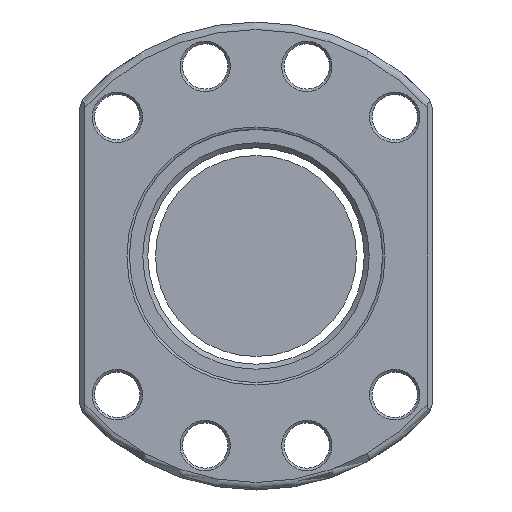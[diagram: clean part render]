
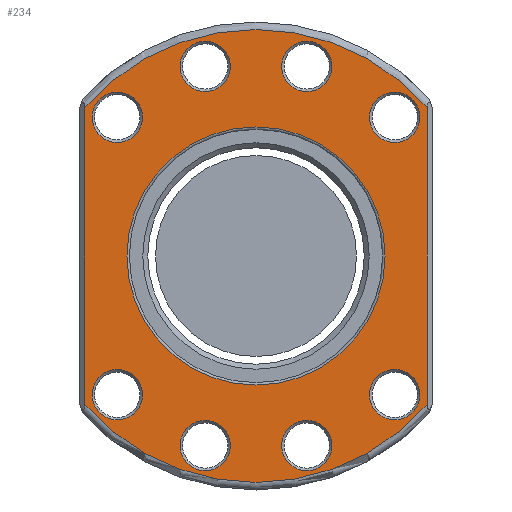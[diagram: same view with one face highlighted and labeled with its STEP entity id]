
A CAD part, front view. The second image highlights one B-rep face of the part: STEP entity #234.
In plain terms, the highlighted planar face has unit normal (0, -1, 0).
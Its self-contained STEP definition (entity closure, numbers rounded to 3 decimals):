
#53=LINE('',#1744,#77);
#54=LINE('',#1748,#78);
#77=VECTOR('',#1443,1.);
#78=VECTOR('',#1446,1.);
#169=PLANE('',#1182);
#234=ADVANCED_FACE('',(#361,#362,#363,#364,#365,#366,#367,#368,#369,#370),
#169,.F.);
#361=FACE_BOUND('',#497,.T.);
#362=FACE_BOUND('',#498,.T.);
#363=FACE_BOUND('',#499,.T.);
#364=FACE_BOUND('',#500,.T.);
#365=FACE_BOUND('',#501,.T.);
#366=FACE_BOUND('',#502,.T.);
#367=FACE_BOUND('',#503,.T.);
#368=FACE_BOUND('',#504,.T.);
#369=FACE_BOUND('',#505,.T.);
#370=FACE_BOUND('',#506,.T.);
#497=EDGE_LOOP('',(#660));
#498=EDGE_LOOP('',(#661));
#499=EDGE_LOOP('',(#662));
#500=EDGE_LOOP('',(#663));
#501=EDGE_LOOP('',(#664));
#502=EDGE_LOOP('',(#665));
#503=EDGE_LOOP('',(#666));
#504=EDGE_LOOP('',(#667));
#505=EDGE_LOOP('',(#668));
#506=EDGE_LOOP('',(#669,#670,#671,#672));
#660=ORIENTED_EDGE('',*,*,#963,.T.);
#661=ORIENTED_EDGE('',*,*,#964,.T.);
#662=ORIENTED_EDGE('',*,*,#965,.T.);
#663=ORIENTED_EDGE('',*,*,#966,.T.);
#664=ORIENTED_EDGE('',*,*,#967,.T.);
#665=ORIENTED_EDGE('',*,*,#968,.T.);
#666=ORIENTED_EDGE('',*,*,#969,.T.);
#667=ORIENTED_EDGE('',*,*,#970,.T.);
#668=ORIENTED_EDGE('',*,*,#971,.T.);
#669=ORIENTED_EDGE('',*,*,#972,.T.);
#670=ORIENTED_EDGE('',*,*,#973,.T.);
#671=ORIENTED_EDGE('',*,*,#974,.T.);
#672=ORIENTED_EDGE('',*,*,#975,.T.);
#866=VERTEX_POINT('',#1724);
#867=VERTEX_POINT('',#1726);
#868=VERTEX_POINT('',#1728);
#869=VERTEX_POINT('',#1730);
#870=VERTEX_POINT('',#1732);
#871=VERTEX_POINT('',#1734);
#872=VERTEX_POINT('',#1736);
#873=VERTEX_POINT('',#1738);
#874=VERTEX_POINT('',#1740);
#875=VERTEX_POINT('',#1742);
#876=VERTEX_POINT('',#1743);
#877=VERTEX_POINT('',#1745);
#878=VERTEX_POINT('',#1747);
#963=EDGE_CURVE('',#866,#866,#1062,.T.);
#964=EDGE_CURVE('',#867,#867,#1063,.T.);
#965=EDGE_CURVE('',#868,#868,#1064,.T.);
#966=EDGE_CURVE('',#869,#869,#1065,.T.);
#967=EDGE_CURVE('',#870,#870,#1066,.T.);
#968=EDGE_CURVE('',#871,#871,#1067,.T.);
#969=EDGE_CURVE('',#872,#872,#1068,.T.);
#970=EDGE_CURVE('',#873,#873,#1069,.T.);
#971=EDGE_CURVE('',#874,#874,#1070,.T.);
#972=EDGE_CURVE('',#875,#876,#1071,.T.);
#973=EDGE_CURVE('',#876,#877,#53,.T.);
#974=EDGE_CURVE('',#877,#878,#1072,.T.);
#975=EDGE_CURVE('',#878,#875,#54,.T.);
#1062=CIRCLE('',#1171,25.65);
#1063=CIRCLE('',#1172,5.);
#1064=CIRCLE('',#1173,5.);
#1065=CIRCLE('',#1174,5.);
#1066=CIRCLE('',#1175,5.);
#1067=CIRCLE('',#1176,5.);
#1068=CIRCLE('',#1177,5.);
#1069=CIRCLE('',#1178,5.);
#1070=CIRCLE('',#1179,5.);
#1071=CIRCLE('',#1180,45.);
#1072=CIRCLE('',#1181,45.);
#1171=AXIS2_PLACEMENT_3D('',#1723,#1423,#1424);
#1172=AXIS2_PLACEMENT_3D('',#1725,#1425,#1426);
#1173=AXIS2_PLACEMENT_3D('',#1727,#1427,#1428);
#1174=AXIS2_PLACEMENT_3D('',#1729,#1429,#1430);
#1175=AXIS2_PLACEMENT_3D('',#1731,#1431,#1432);
#1176=AXIS2_PLACEMENT_3D('',#1733,#1433,#1434);
#1177=AXIS2_PLACEMENT_3D('',#1735,#1435,#1436);
#1178=AXIS2_PLACEMENT_3D('',#1737,#1437,#1438);
#1179=AXIS2_PLACEMENT_3D('',#1739,#1439,#1440);
#1180=AXIS2_PLACEMENT_3D('',#1741,#1441,#1442);
#1181=AXIS2_PLACEMENT_3D('',#1746,#1444,#1445);
#1182=AXIS2_PLACEMENT_3D('',#1749,#1447,#1448);
#1423=DIRECTION('',(0.,1.,0.));
#1424=DIRECTION('',(0.,0.,1.));
#1425=DIRECTION('',(0.,1.,0.));
#1426=DIRECTION('',(0.,0.,1.));
#1427=DIRECTION('',(0.,1.,0.));
#1428=DIRECTION('',(0.,0.,1.));
#1429=DIRECTION('',(0.,1.,0.));
#1430=DIRECTION('',(0.,0.,1.));
#1431=DIRECTION('',(0.,1.,0.));
#1432=DIRECTION('',(0.,0.,1.));
#1433=DIRECTION('',(0.,1.,0.));
#1434=DIRECTION('',(0.,0.,1.));
#1435=DIRECTION('',(0.,1.,0.));
#1436=DIRECTION('',(0.,0.,1.));
#1437=DIRECTION('',(0.,1.,0.));
#1438=DIRECTION('',(0.,0.,1.));
#1439=DIRECTION('',(0.,1.,0.));
#1440=DIRECTION('',(0.,0.,1.));
#1441=DIRECTION('',(0.,-1.,0.));
#1442=DIRECTION('',(0.,0.,1.));
#1443=DIRECTION('',(0.,0.,-1.));
#1444=DIRECTION('',(0.,-1.,0.));
#1445=DIRECTION('',(0.,0.,1.));
#1446=DIRECTION('',(0.,0.,1.));
#1447=DIRECTION('',(0.,1.,0.));
#1448=DIRECTION('',(0.,0.,1.));
#1723=CARTESIAN_POINT('',(0.,0.,0.));
#1724=CARTESIAN_POINT('',(0.,0.,25.65));
#1725=CARTESIAN_POINT('',(27.577,0.,-27.577));
#1726=CARTESIAN_POINT('',(27.577,0.,-22.577));
#1727=CARTESIAN_POINT('',(-10.094,0.,37.671));
#1728=CARTESIAN_POINT('',(-10.094,0.,42.671));
#1729=CARTESIAN_POINT('',(-27.577,0.,-27.577));
#1730=CARTESIAN_POINT('',(-27.577,0.,-22.577));
#1731=CARTESIAN_POINT('',(-10.094,0.,-37.671));
#1732=CARTESIAN_POINT('',(-10.094,0.,-32.671));
#1733=CARTESIAN_POINT('',(-27.577,0.,27.577));
#1734=CARTESIAN_POINT('',(-27.577,0.,32.577));
#1735=CARTESIAN_POINT('',(10.094,0.,-37.671));
#1736=CARTESIAN_POINT('',(10.094,0.,-32.671));
#1737=CARTESIAN_POINT('',(27.577,0.,27.577));
#1738=CARTESIAN_POINT('',(27.577,0.,32.577));
#1739=CARTESIAN_POINT('',(10.094,0.,37.671));
#1740=CARTESIAN_POINT('',(10.094,0.,42.671));
#1741=CARTESIAN_POINT('',(0.,0.,0.));
#1742=CARTESIAN_POINT('',(34.,0.,29.479));
#1743=CARTESIAN_POINT('',(-34.,0.,29.479));
#1744=CARTESIAN_POINT('',(-34.,0.,0.));
#1745=CARTESIAN_POINT('',(-34.,0.,-29.479));
#1746=CARTESIAN_POINT('',(0.,0.,0.));
#1747=CARTESIAN_POINT('',(34.,0.,-29.479));
#1748=CARTESIAN_POINT('',(34.,0.,0.));
#1749=CARTESIAN_POINT('',(0.,0.,0.));
